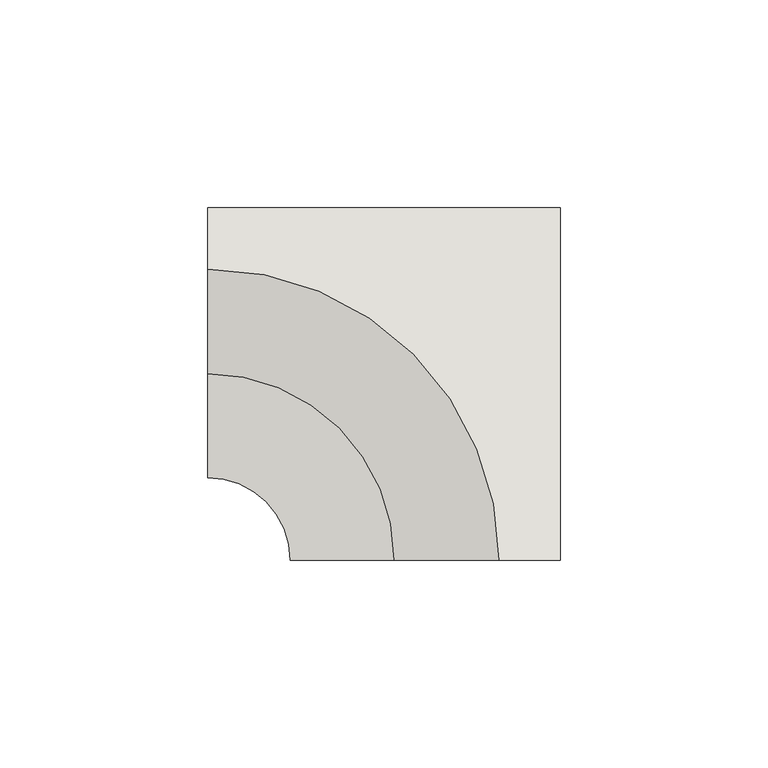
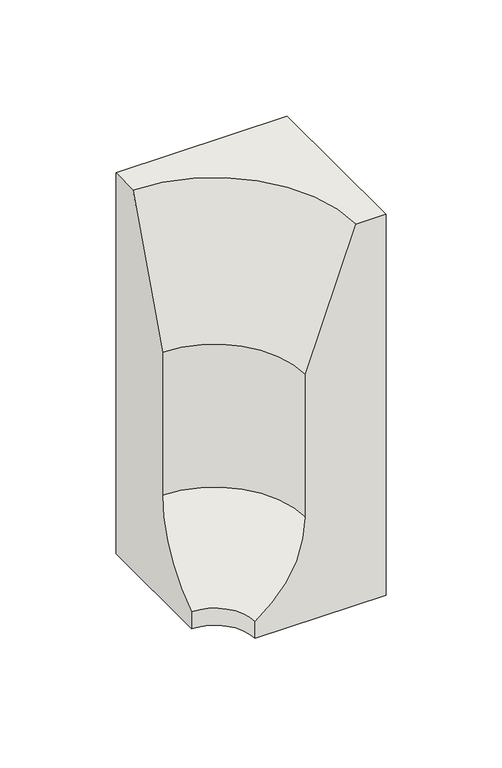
"""IFC4 building model written with IfcOpenShell, lengths in millimetres: wall geometry, GM_PC_UN_ACO kerb PB inside corner_ACO : PB H200 plain."""

from ifc_helpers import new_model, si_unit, point, frame, origin, place, context, project, spatial, polyline, circle_curve, ellipse_curve, trimmed, source, transform, mapped, element, save
from ifc_brep_helpers import plane_surface, revolved_surface, advanced_brep


def wall_ed1be866(model_context):
    return source(origin(), model_context, "Body", "AdvancedBrep", [
        advanced_brep(
        [(-85.0, -40.0039527, 130.0277035), (-85.0, -14.8571389, 200.0197419), (-85.0, 0.0, 200.0197419), (-85.0, 0.0, 0.0), (-85.0, -65.0223078, 0.0), (-85.0, -65.0223078, 8.9062534), (-85.0, -40.0039527, 54.9895287), (-40.0039527, -85.0, 130.0277035), (-40.0039527, -85.0, 54.9895287), (-65.0223078, -85.0, 8.9062534), (-65.0223078, -85.0, 0.0), (0.0, -85.0, 0.0), (0.0, -85.0, 200.0), (-14.8571389, -85.0, 200.0197419), (0.0, 0.0, 200.0197419), (0.0, 0.0, 0.0)],
        [
            (0, 1),
            (1, 2),
            (2, 3),
            (3, 4),
            (4, 5),
            (5, 6, circle_curve(frame((-85.0, -94.2239515, 54.592465), z_axis=(1.0, 0.0, 0.0), x_axis=(0.0, 0.5385625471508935, -0.8425855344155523)), 54.2214526)),
            (6, 0),
            (7, 8),
            (8, 9, circle_curve(frame((-94.2239515, -85.0, 54.592465), z_axis=(0.0, 1.0, 0.0), x_axis=(0.5385625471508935, 0.0, -0.8425855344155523)), 54.2214526)),
            (9, 10),
            (10, 11),
            (11, 12),
            (12, 13),
            (13, 7),
            (0, 7, circle_curve(frame((-85.0, -85.0, 130.0277035), z_axis=(0.0, 0.0, -1.0), x_axis=(0.0, 1.0, 0.0)), 44.9960473)),
            (13, 1, circle_curve(frame((-85.0, -85.0, 200.0197419), z_axis=(0.0, 0.0, 1.0), x_axis=(0.0, 1.0, 0.0)), 70.1428611)),
            (12, 14),
            (14, 2),
            (3, 15),
            (15, 11),
            (10, 4, circle_curve(frame((-85.0, -85.0, 0.0), z_axis=(0.0, 0.0, 1.0), x_axis=(0.0, 1.0, 0.0)), 19.9776922)),
            (9, 5, circle_curve(frame((-85.0, -85.0, 8.9062534), z_axis=(0.0, 0.0, 1.0), x_axis=(0.0, 1.0, 0.0)), 19.9776922)),
            (8, 6, circle_curve(frame((-85.0, -85.0, 54.9895287), z_axis=(0.0, 0.0, 1.0), x_axis=(0.0, 1.0, 0.0)), 44.9960473)),
            (14, 15),
        ],
        [
            plane_surface(frame((-85.0, 0.0, 0.0), z_axis=(-1.0, 0.0, 0.0), x_axis=(0.0, 0.0, 1.0))),
            plane_surface(frame((0.0, -85.0, 0.0), z_axis=(0.0, -1.0, 0.0), x_axis=(0.0, 0.0, 1.0))),
            revolved_surface(polyline([(-85.0, -40.0039527, 130.0277035), (-85.0, -14.8571389, 200.0197419)]), (-85.0, -85.0, 0.0), (0.0, 0.0, -1.0)),
            plane_surface(frame((-85.0, -85.0, 200.0197419), z_axis=(0.0, 0.0, 1.0), x_axis=(0.0, 1.0, 0.0))),
            plane_surface(frame((-85.0, -85.0, 0.0), z_axis=(0.0, 0.0, -1.0), x_axis=(0.0, 1.0, 0.0))),
            revolved_surface(polyline([(-85.0, -65.0223078, 0.0), (-85.0, -65.0223078, 8.9062534)]), (-85.0, -85.0, 0.0), (0.0, 0.0, -1.0)),
            revolved_surface(trimmed(ellipse_curve(frame((-85.0, -94.2239515, 54.592465), z_axis=(1.0, 0.0, 0.0), x_axis=(0.0, 0.5385625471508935, -0.8425855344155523)), 54.2214526, 54.2214526), [point((-85.0, -65.0223078, 8.9062534))], [point((-85.0, -40.0039527, 54.9895287))], True, "CARTESIAN"), (-85.0, -85.0, 0.0), (0.0, 0.0, -1.0)),
            revolved_surface(polyline([(-85.0, -40.0039527, 54.9895287), (-85.0, -40.0039527, 130.0277035)]), (-85.0, -85.0, 0.0), (0.0, 0.0, -1.0)),
            plane_surface(frame((0.0, 0.0, 200.0), z_axis=(0.0, 1.0, 0.0), x_axis=(0.0, 0.0, -1.0))),
            plane_surface(frame((0.0, -85.0, 200.0), z_axis=(1.0, 0.0, 0.0), x_axis=(0.0, 0.0, -1.0))),
        ],
        [
            (0, [[1, 2, 3, 4, 5, 6, 7]]),
            (1, [[8, 9, 10, 11, 12, 13, 14]]),
            (2, [[-1, 15, -14, 16]]),
            (3, [[-2, -16, -13, 17, 18]]),
            (4, [[-4, 19, 20, -11, 21]]),
            (5, [[-5, -21, -10, 22]]),
            (6, [[-6, -22, -9, 23]]),
            (7, [[-7, -23, -8, -15]]),
            (8, [[-18, 24, -19, -3]]),
            (9, [[-17, -12, -20, -24]]),
        ],
    ),
    ])


if __name__ == "__main__":
    model = new_model("IFC4")
    model_context = context("Model", 3, world=origin())
    ifc_project = project(units=[si_unit("LENGTHUNIT", "METRE", prefix="MILLI")], contexts=[model_context])
    site = spatial("IfcSite", under=ifc_project)
    building = spatial("IfcBuilding", under=site)
    placement = place(None, origin())
    wall_shape = wall_ed1be866(model_context)
    element("IfcWall", 1, ObjectType="GM_PC_UN_ACO kerb PB inside corner_ACO : PB H200 plain", at=placement, inside=building, context=model_context, shape_type="MappedRepresentation", body=[
        mapped(wall_shape, transform((0.0, 0.0, 0.0), x_axis=(1.0, 0.0, 0.0), y_axis=(0.0, 1.0, 0.0), z_axis=(0.0, 0.0, 1.0))),
    ])
    save(model, "model.ifc")
